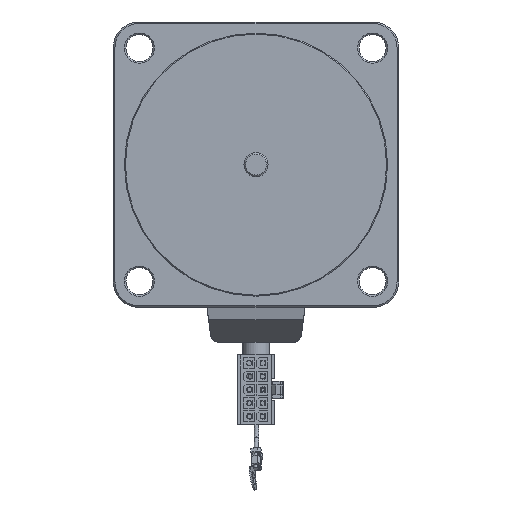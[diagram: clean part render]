
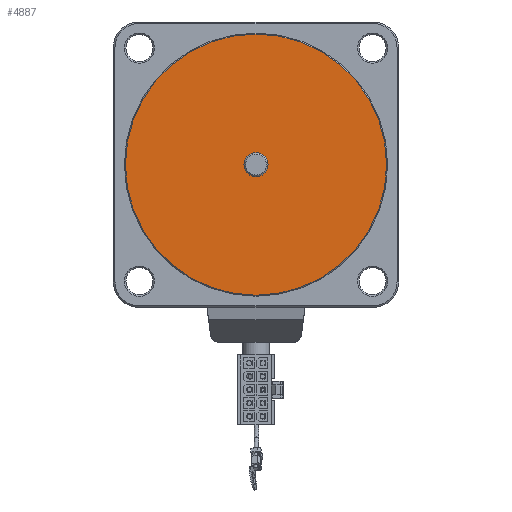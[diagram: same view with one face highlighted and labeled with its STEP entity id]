
A CAD part, front view. The second image highlights one B-rep face of the part: STEP entity #4887.
In plain terms, the highlighted planar face has unit normal (0, -1, 0).
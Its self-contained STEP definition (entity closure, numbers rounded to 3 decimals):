
#2169=CARTESIAN_POINT('',(3.8,-2.,0.));
#2170=VERTEX_POINT('',#2169);
#2171=CARTESIAN_POINT('',(0.0,-2.,0.0));
#2172=DIRECTION('',(0.0,1.0,0.0));
#2173=DIRECTION('',(-1.0,0.0,0.0));
#2174=AXIS2_PLACEMENT_3D('',#2171,#2172,#2173);
#2175=CIRCLE('',#2174,3.8);
#2176=EDGE_CURVE('',#2170,#2170,#2175,.T.);
#4841=CARTESIAN_POINT('',(41.2,-2.0,0.));
#4842=VERTEX_POINT('',#4841);
#4843=CARTESIAN_POINT('',(0.0,-2.0,0.0));
#4844=DIRECTION('',(0.0,1.0,0.0));
#4845=DIRECTION('',(-1.0,0.0,0.0));
#4846=AXIS2_PLACEMENT_3D('',#4843,#4844,#4845);
#4847=CIRCLE('',#4846,41.2);
#4848=EDGE_CURVE('',#4842,#4842,#4847,.T.);
#4876=CARTESIAN_POINT('',(0.0,-2.0,0.0));
#4877=DIRECTION('',(0.0,1.0,0.0));
#4878=DIRECTION('',(0.0,0.0,1.0));
#4879=AXIS2_PLACEMENT_3D('',#4876,#4877,#4878);
#4880=PLANE('',#4879);
#4881=ORIENTED_EDGE('',*,*,#4848,.F.);
#4882=EDGE_LOOP('',(#4881));
#4883=FACE_OUTER_BOUND('',#4882,.T.);
#4884=ORIENTED_EDGE('',*,*,#2176,.T.);
#4885=EDGE_LOOP('',(#4884));
#4886=FACE_BOUND('',#4885,.T.);
#4887=ADVANCED_FACE('',(#4883,#4886),#4880,.F.);
